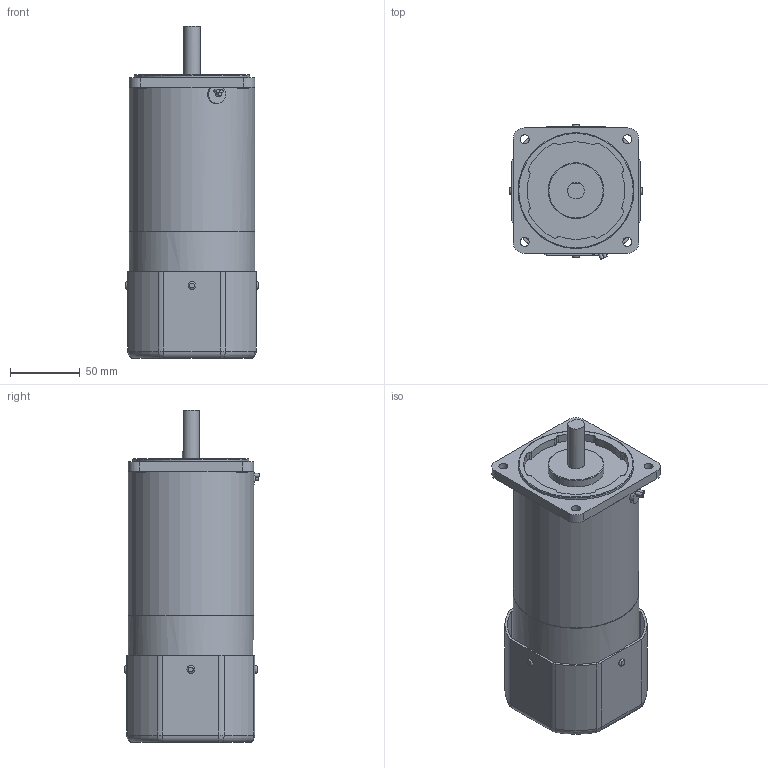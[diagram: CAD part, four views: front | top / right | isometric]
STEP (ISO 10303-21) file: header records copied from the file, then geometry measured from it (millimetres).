
FILE_DESCRIPTION((''),'2;1');
FILE_NAME('E:\2공장-도면\3D\표준형 3D(민규)\step file\D\K9RS60Fㅁ-D.stp','2014-11-17T11:04:58',('AHN'),(''),'Autodesk Inventor 2012','Autodesk Inventor 2012','');
FILE_SCHEMA(('CONFIG_CONTROL_DESIGN'));
Length unit declared in the file: millimetre
Products named in the file (1): K9RS60Fㅁ-D
Bounding box: 95 x 96.71 x 238 mm (x, y, z)
Volume: 1224454.6 mm3; surface area: 116902.9 mm2
Topology: 1 solids, 1 shells, 235 faces, 586 edges, 360 vertices
Faces by surface type: cylinder 121, plane 68, torus 38, bspline 8
Full cylindrical faces by diameter (mm): 6.5 x4, 8 x4, 12 x1, 40 x1, 83 x1, 89.8 x1, 90 x2
Entity records: 7582 total; most frequent: CARTESIAN_POINT 1966, DIRECTION 1211, ORIENTED_EDGE 1114, EDGE_CURVE 557, AXIS2_PLACEMENT_3D 483, VERTEX_POINT 351, EDGE_LOOP 303, CIRCLE 255
